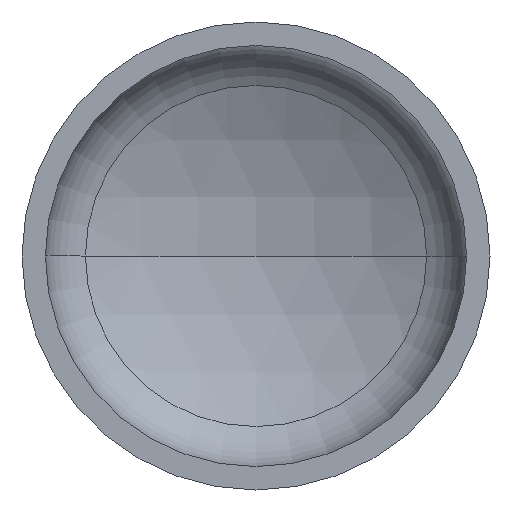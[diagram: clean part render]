
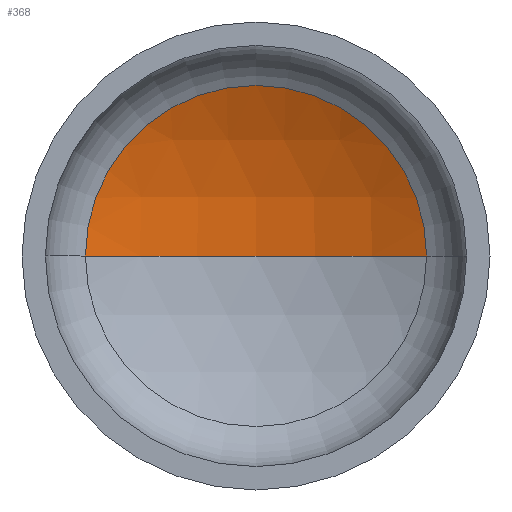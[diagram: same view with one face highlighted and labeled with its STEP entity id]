
A CAD part, front view. The second image highlights one B-rep face of the part: STEP entity #368.
In plain terms, the highlighted spherical face has radius 560 mm.
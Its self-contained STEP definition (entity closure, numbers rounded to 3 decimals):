
#1 = AXIS2_PLACEMENT_3D ( 'NONE', #175, #157, #153 ) ;
#7 = AXIS2_PLACEMENT_3D ( 'NONE', #150, #151, #127 ) ;
#16 = EDGE_LOOP ( 'NONE', ( #118, #93, #79 ) ) ;
#52 = VERTEX_POINT ( 'NONE', #243 ) ;
#79 = ORIENTED_EDGE ( 'NONE', *, *, #358, .T. ) ;
#93 = ORIENTED_EDGE ( 'NONE', *, *, #383, .T. ) ;
#98 = VERTEX_POINT ( 'NONE', #321 ) ;
#118 = ORIENTED_EDGE ( 'NONE', *, *, #399, .F. ) ;
#127 = DIRECTION ( 'NONE',  ( 1., 0., 0. ) ) ;
#130 = FACE_OUTER_BOUND ( 'NONE', #16, .T. ) ;
#141 = VERTEX_POINT ( 'NONE', #300 ) ;
#150 = CARTESIAN_POINT ( 'NONE',  ( 0., 207.923, 0. ) ) ;
#151 = DIRECTION ( 'NONE',  ( 0., -1., 0. ) ) ;
#153 = DIRECTION ( 'NONE',  ( -1., 0., 0. ) ) ;
#157 = DIRECTION ( 'NONE',  ( 0., 0., -1. ) ) ;
#175 = CARTESIAN_POINT ( 'NONE',  ( 0., -290.593, 0. ) ) ;
#184 = SPHERICAL_SURFACE ( 'NONE', #1, 560. ) ;
#186 = CARTESIAN_POINT ( 'NONE',  ( 0., -290.593, 0. ) ) ;
#215 = DIRECTION ( 'NONE',  ( 1., 0., 0. ) ) ;
#219 = DIRECTION ( 'NONE',  ( -1., 0., 0. ) ) ;
#243 = CARTESIAN_POINT ( 'NONE',  ( 255.111, 207.923, 0. ) ) ;
#262 = CARTESIAN_POINT ( 'NONE',  ( 0., -290.593, 0. ) ) ;
#274 = AXIS2_PLACEMENT_3D ( 'NONE', #262, #367, #219 ) ;
#300 = CARTESIAN_POINT ( 'NONE',  ( 0., 269.407, 0. ) ) ;
#314 = AXIS2_PLACEMENT_3D ( 'NONE', #186, #366, #215 ) ;
#317 = CIRCLE ( 'NONE', #7, 255.111 ) ;
#321 = CARTESIAN_POINT ( 'NONE',  ( -255.111, 207.923, 0. ) ) ;
#358 = EDGE_CURVE ( 'NONE', #52, #98, #317, .T. ) ;
#366 = DIRECTION ( 'NONE',  ( 0., 0., 1. ) ) ;
#367 = DIRECTION ( 'NONE',  ( 0., 0., -1. ) ) ;
#368 = ADVANCED_FACE ( 'NONE', ( #130 ), #184, .F. ) ;
#374 = CIRCLE ( 'NONE', #314, 560. ) ;
#382 = CIRCLE ( 'NONE', #274, 560. ) ;
#383 = EDGE_CURVE ( 'NONE', #141, #52, #382, .T. ) ;
#399 = EDGE_CURVE ( 'NONE', #141, #98, #374, .T. ) ;
